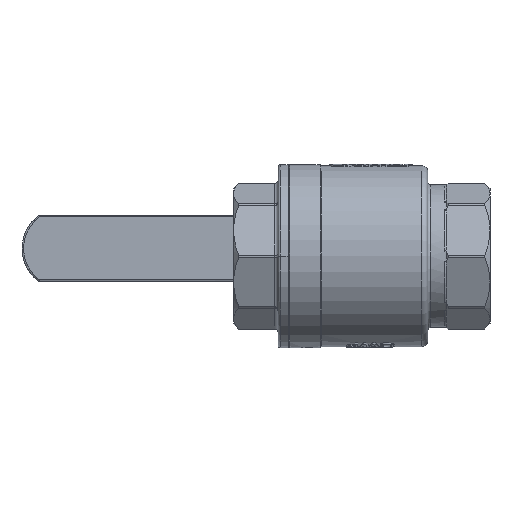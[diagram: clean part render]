
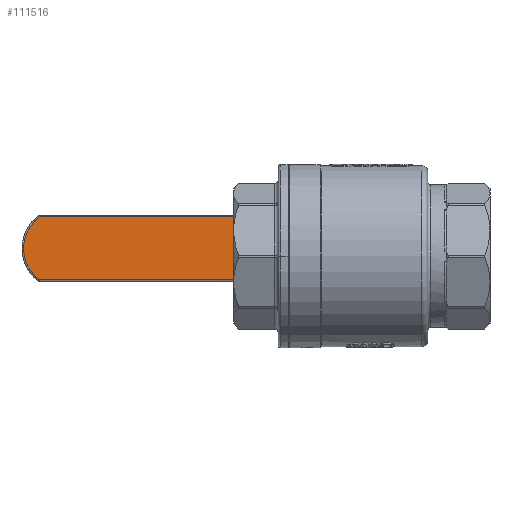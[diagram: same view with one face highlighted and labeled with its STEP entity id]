
A CAD part, front view. The second image highlights one B-rep face of the part: STEP entity #111516.
In plain terms, the highlighted planar face has unit normal (0, -1, 0).
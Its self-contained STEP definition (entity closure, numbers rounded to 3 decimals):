
#1757 = ORIENTED_EDGE ( 'NONE', *, *, #40150, .T. ) ;
#2049 = VECTOR ( 'NONE', #130456, 1000. ) ;
#3562 = AXIS2_PLACEMENT_3D ( 'NONE', #106844, #54930, #86775 ) ;
#5364 = ORIENTED_EDGE ( 'NONE', *, *, #18970, .T. ) ;
#18465 = DIRECTION ( 'NONE',  ( 0., 1., 0. ) ) ;
#18970 = EDGE_CURVE ( 'NONE', #82615, #95354, #60497, .T. ) ;
#24014 = CARTESIAN_POINT ( 'NONE',  ( -10.002, -6., 19.75 ) ) ;
#24373 = LINE ( 'NONE', #110092, #56322 ) ;
#29556 = VERTEX_POINT ( 'NONE', #51115 ) ;
#38863 = FACE_OUTER_BOUND ( 'NONE', #74916, .T. ) ;
#39062 = DIRECTION ( 'NONE',  ( -1., 0., 0. ) ) ;
#40150 = EDGE_CURVE ( 'NONE', #29556, #103742, #49374, .T. ) ;
#48427 = LINE ( 'NONE', #68679, #2049 ) ;
#49374 = LINE ( 'NONE', #120483, #118235 ) ;
#51115 = CARTESIAN_POINT ( 'NONE',  ( -154.632, -6., 19.75 ) ) ;
#54930 = DIRECTION ( 'NONE',  ( 0., -1., 0. ) ) ;
#56322 = VECTOR ( 'NONE', #90039, 1000. ) ;
#60497 = CIRCLE ( 'NONE', #3562, 24.5 ) ;
#63192 = ORIENTED_EDGE ( 'NONE', *, *, #72320, .T. ) ;
#68679 = CARTESIAN_POINT ( 'NONE',  ( -155.5, -6., -19.75 ) ) ;
#72320 = EDGE_CURVE ( 'NONE', #103742, #82615, #48427, .T. ) ;
#74258 = EDGE_CURVE ( 'NONE', #95354, #29556, #24373, .T. ) ;
#74916 = EDGE_LOOP ( 'NONE', ( #1757, #63192, #5364, #98950 ) ) ;
#82615 = VERTEX_POINT ( 'NONE', #91152 ) ;
#86775 = DIRECTION ( 'NONE',  ( -1., 0., 0. ) ) ;
#88841 = DIRECTION ( 'NONE',  ( 0., 0., -1. ) ) ;
#90039 = DIRECTION ( 'NONE',  ( -1., 0., 0. ) ) ;
#91152 = CARTESIAN_POINT ( 'NONE',  ( -10.002, -6., -19.75 ) ) ;
#91271 = AXIS2_PLACEMENT_3D ( 'NONE', #121831, #18465, #39062 ) ;
#95354 = VERTEX_POINT ( 'NONE', #24014 ) ;
#98950 = ORIENTED_EDGE ( 'NONE', *, *, #74258, .T. ) ;
#103742 = VERTEX_POINT ( 'NONE', #119879 ) ;
#106844 = CARTESIAN_POINT ( 'NONE',  ( -24.5, -6., 0. ) ) ;
#110092 = CARTESIAN_POINT ( 'NONE',  ( -155.066, -6., 19.75 ) ) ;
#111516 = ADVANCED_FACE ( 'NONE', ( #38863 ), #111541, .F. ) ;
#111541 = PLANE ( 'NONE',  #91271 ) ;
#118235 = VECTOR ( 'NONE', #88841, 1000. ) ;
#119879 = CARTESIAN_POINT ( 'NONE',  ( -154.632, -6., -19.75 ) ) ;
#120483 = CARTESIAN_POINT ( 'NONE',  ( -154.632, -6., -20.75 ) ) ;
#121831 = CARTESIAN_POINT ( 'NONE',  ( -155.5, -6., 19.75 ) ) ;
#130456 = DIRECTION ( 'NONE',  ( 1., 0., 0. ) ) ;
